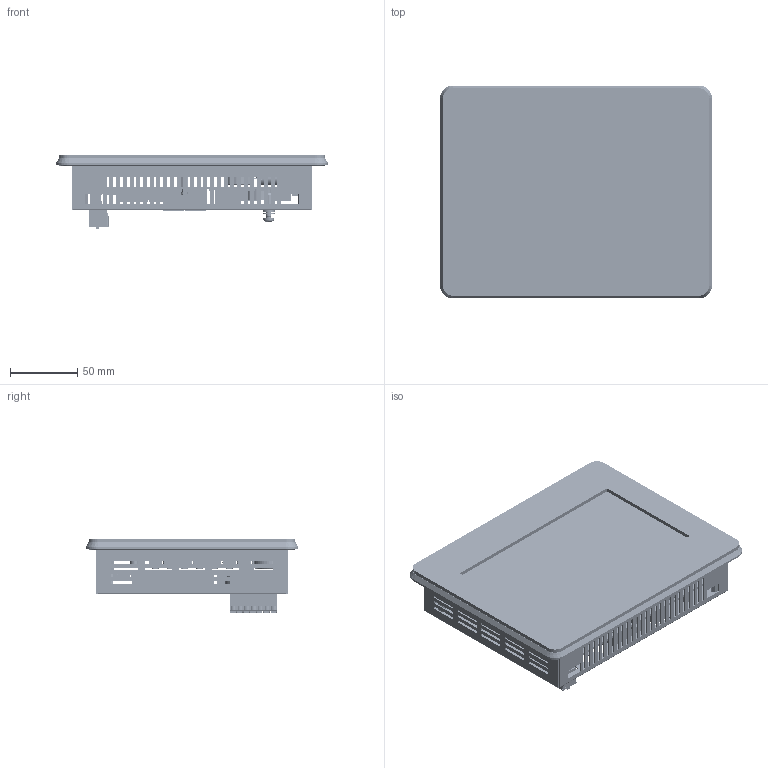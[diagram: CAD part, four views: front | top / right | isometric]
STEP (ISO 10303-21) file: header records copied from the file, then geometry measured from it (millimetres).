
FILE_DESCRIPTION(/* description */ (''),/* implementation_level */ '2;1');
FILE_NAME(/* name */ 'TC-WP570_20260617_cap.stp',/* time_stamp */ '2026-06-17T12:23:05+02:00',/* author */ ('ut3'),/* organization */ (''),/* preprocessor_version */ 'ST-DEVELOPER v20.1',/* originating_system */ 'Autodesk Inventor 2026',/* authorisation */ '');
FILE_SCHEMA (('AUTOMOTIVE_DESIGN { 1 0 10303 214 3 1 1 }'));
Products named in the file (251): WP570_V2; 1300.20.617_V2; 1300.20.617_V2_1; FHL-M3-8; 1300.20.578_v1_Guarnizione; LCD-7; LCD-7_1; Controller LCD; Flat; TP-7; Flat1; 0; 0_1; 0_2; 0_3; 0_4; 0_5; •WÜX2\20AC2022\X0\iƒ³6.
3 SIZE CODE D; •WÜX2\20AC\X0\SIZE CODE D-001; •WÜX2\20AC\X0\SIZE CODE D-002; •WÜX2\20AC\X0\SIZE CODE D-003; ASSEMBLY; Fillet1; Fillet2; body2; ASSEMBLY_1; Body; FilletPin1; FilletPin2; ASSEMBLY_2; Body_1; FilletPin1_1; FilletPin2_1; 0_6; 0_7; ASSEMBLY_3; Body_2; PinsArrayL; FilletPinR; ASSEMBLY_4 ...
Assembly tree (626 placements, depth 4):
  WP570_V2
    1300.20.617_V2
      1300.20.617_V2_1
      FHL-M3-8  x5
      1300.20.578_v1_Guarnizione
    LCD-7
      LCD-7_1
      Controller LCD
      Flat
      TP-7
      Flat1
    0
      0_1
        0_2
      0_3
      0_4
      0_5
      ASSEMBLY  x3
        Fillet1
        Fillet2
        body2
      ASSEMBLY_22  x9
        Fillet1_2
        Fillet2_2
        body2_2
      •WÜX2\20AC2022\X0\iƒ³6.
3 SIZE CODE D
        •WÜX2\20AC\X0\SIZE CODE D-001
        •WÜX2\20AC\X0\SIZE CODE D-003  x2
        •WÜX2\20AC\X0\SIZE CODE D-002
      ASSEMBLY_1  x2
        Body
        FilletPin1
        FilletPin2
      ASSEMBLY_2
        Body_1
        FilletPin1_1
        FilletPin2_1
      0_6
      0_7
      ASSEMBLY_3  x2
        Body_2
        PinsArrayL
        FilletPinR
      ASSEMBLY_4
        term1
        term2
        body_3
      ASSEMBLY_5
        term1_1
        term2_1
        body_4
      ASSEMBLY_6
        term1_2
        term2_2
        body_5
      ASSEMBLY_17  x8
        term1_13
        term2_13
        body_16
      ASSEMBLY_7
Bounding box: 202.3 x 158.3 x 55.75 mm (x, y, z)
Volume: 352406.6 mm3; surface area: 356834.7 mm2
Topology: 1305 solids, 1375 shells, 14663 faces, 35215 edges, 23145 vertices
Faces by surface type: plane 9624, cylinder 4705, sphere 132, cone 85, bspline 61, torus 56
Full cylindrical faces by diameter (mm): 0 x1, 0.156 x1, 0.163 x2, 0.2 x347, 0.254 x131, 0.3 x926, 0.345 x1, 0.406 x140, 0.457 x1, 0.5 x127, 0.508 x53, 0.6 x49, 0.65 x2, 0.66 x35, 0.7 x28, 0.75 x2, 0.762 x58, 0.8 x4, 0.85 x2, 0.875 x1, 0.889 x49, 1.016 x42, 1.1 x3, 1.118 x79, 1.2 x4, 1.321 x3, 1.397 x7, 1.4 x7, 1.416 x2, 1.6 x3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
Entity records: 373127 total; most frequent: CARTESIAN_POINT 66699, DIRECTION 61879, ORIENTED_EDGE 56652, EDGE_CURVE 28400, AXIS2_PLACEMENT_3D 21311, LINE 19257, VECTOR 19257, VERTEX_POINT 18767
